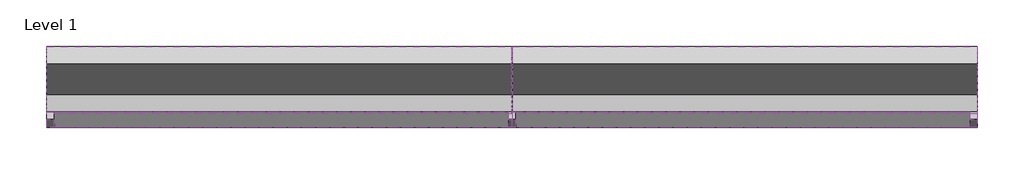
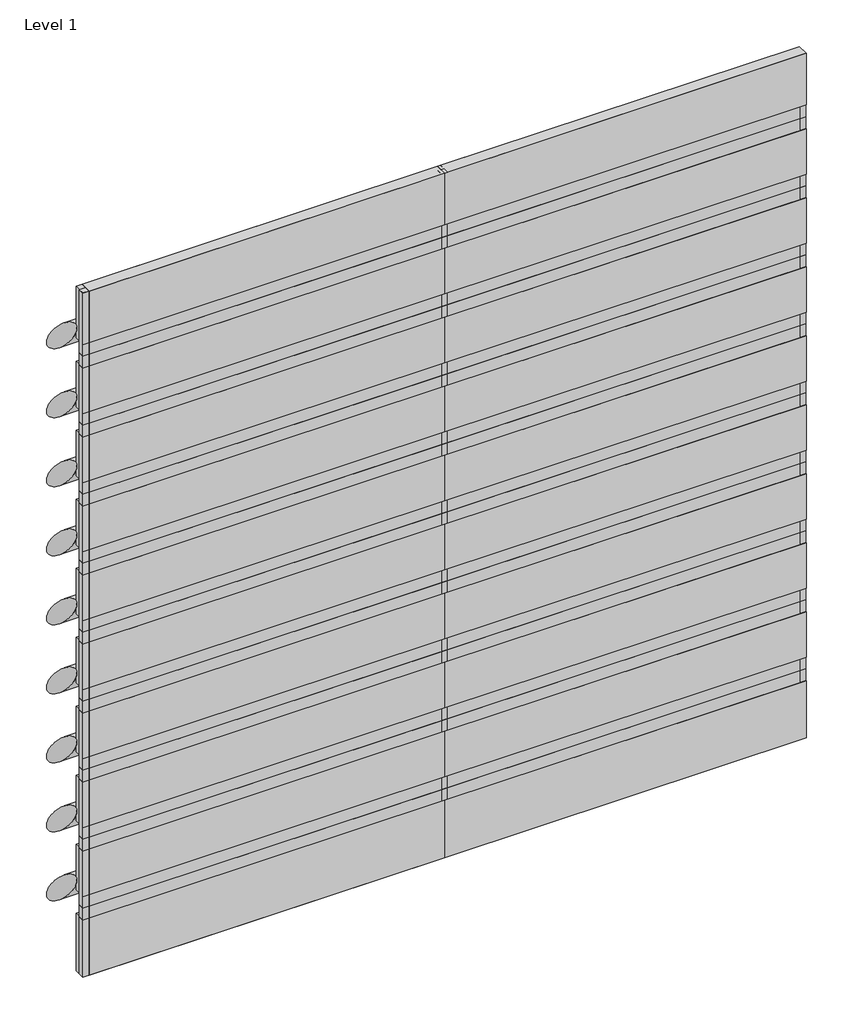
# One storey: 48 members, 40 plates.
"""IFC4 building model written with IfcOpenShell, lengths in millimetres."""

from ifc_helpers import new_model, si_unit, origin, place, context, project, spatial, transform, mapped, element, save
from components import rectangular_mullion_f0bcd2d9, rectangular_mullion_543a06af, rectangular_mullion_fcffcf6d, rectangular_mullion_1c998518, rectangular_mullion_4d0e3d15, rectangular_mullion_d8201ae5, rectangular_mullion_6e5ba28d, empty_system_panel_empty_d83849b1, empty_system_panel_empty_08c20342, empty_system_panel_empty_44b8d910, empty_system_panel_empty_714687c1, empty_system_panel_empty_0677d599

model = new_model("IFC4")

# Units and contexts
model_context = context("Model", 3, world=origin())
ifc_project = project(units=[si_unit("LENGTHUNIT", "METRE", prefix="MILLI")], contexts=[model_context])

# Site, building, storey
site = spatial("IfcSite", under=ifc_project)
building = spatial("IfcBuilding", under=site)
storey = spatial("IfcBuildingStorey", under=building, Name="Level 1", Elevation=0.0)

# Members
placement = place(None, origin())
rectangular_mullion_shape = rectangular_mullion_f0bcd2d9(model_context)
element("IfcMember", 1, ObjectType="Rectangular Mullion : RSen_21_CWM_blade - wing 600 - 45° perforated_gen_duco projects", at=placement, inside=storey, context=model_context, shape_type="MappedRepresentation", body=[
    mapped(rectangular_mullion_shape, transform((3000.0, 3000.0, 605.0), x_axis=(0.0, 0.0, 1.0), y_axis=(0.0, 1.0, 0.0), z_axis=(-1.0, 0.0, 0.0))),
])
element("IfcMember", 2, ObjectType="Rectangular Mullion : RSen_21_CWM_blade - wing 600 - 45° perforated_gen_duco projects", at=placement, inside=storey, context=model_context, shape_type="MappedRepresentation", body=[
    mapped(rectangular_mullion_shape, transform((3000.0, 3000.0, 1210.0), x_axis=(0.0, 0.0, 1.0), y_axis=(0.0, 1.0, 0.0), z_axis=(-1.0, 0.0, 0.0))),
])
element("IfcMember", 3, ObjectType="Rectangular Mullion : RSen_21_CWM_blade - wing 600 - 45° perforated_gen_duco projects", at=placement, inside=storey, context=model_context, shape_type="MappedRepresentation", body=[
    mapped(rectangular_mullion_shape, transform((3000.0, 3000.0, 1815.0), x_axis=(0.0, 0.0, 1.0), y_axis=(0.0, 1.0, 0.0), z_axis=(-1.0, 0.0, 0.0))),
])
element("IfcMember", 4, ObjectType="Rectangular Mullion : RSen_21_CWM_blade - wing 600 - 45° perforated_gen_duco projects", at=placement, inside=storey, context=model_context, shape_type="MappedRepresentation", body=[
    mapped(rectangular_mullion_shape, transform((3000.0, 3000.0, 2420.0), x_axis=(0.0, 0.0, 1.0), y_axis=(0.0, 1.0, 0.0), z_axis=(-1.0, 0.0, 0.0))),
])
element("IfcMember", 5, ObjectType="Rectangular Mullion : RSen_21_CWM_blade - wing 600 - 45° perforated_gen_duco projects", at=placement, inside=storey, context=model_context, shape_type="MappedRepresentation", body=[
    mapped(rectangular_mullion_shape, transform((3000.0, 3000.0, 3025.0), x_axis=(0.0, 0.0, 1.0), y_axis=(0.0, 1.0, 0.0), z_axis=(-1.0, 0.0, 0.0))),
])
element("IfcMember", 6, ObjectType="Rectangular Mullion : RSen_21_CWM_blade - wing 600 - 45° perforated_gen_duco projects", at=placement, inside=storey, context=model_context, shape_type="MappedRepresentation", body=[
    mapped(rectangular_mullion_shape, transform((3000.0, 3000.0, 3630.0), x_axis=(0.0, 0.0, 1.0), y_axis=(0.0, 1.0, 0.0), z_axis=(-1.0, 0.0, 0.0))),
])
element("IfcMember", 7, ObjectType="Rectangular Mullion : RSen_21_CWM_blade - wing 600 - 45° perforated_gen_duco projects", at=placement, inside=storey, context=model_context, shape_type="MappedRepresentation", body=[
    mapped(rectangular_mullion_shape, transform((3000.0, 3000.0, 4235.0), x_axis=(0.0, 0.0, 1.0), y_axis=(0.0, 1.0, 0.0), z_axis=(-1.0, 0.0, 0.0))),
])
element("IfcMember", 8, ObjectType="Rectangular Mullion : RSen_21_CWM_blade - wing 600 - 45° perforated_gen_duco projects", at=placement, inside=storey, context=model_context, shape_type="MappedRepresentation", body=[
    mapped(rectangular_mullion_shape, transform((3000.0, 3000.0, 4840.0), x_axis=(0.0, 0.0, 1.0), y_axis=(0.0, 1.0, 0.0), z_axis=(-1.0, 0.0, 0.0))),
])
element("IfcMember", 9, ObjectType="Rectangular Mullion : RSen_21_CWM_blade - wing 600 - 45° perforated_gen_duco projects", at=placement, inside=storey, context=model_context, shape_type="MappedRepresentation", body=[
    mapped(rectangular_mullion_shape, transform((3000.0, 3000.0, 5445.0), x_axis=(0.0, 0.0, 1.0), y_axis=(0.0, 1.0, 0.0), z_axis=(-1.0, 0.0, 0.0))),
])
element("IfcMember", 10, ObjectType="Rectangular Mullion : RSen_21_CWM_blade - wing 600 - 45° perforated_gen_duco projects", at=placement, inside=storey, context=model_context, shape_type="MappedRepresentation", body=[
    mapped(rectangular_mullion_shape, transform((0.0, 3000.0, 605.0), x_axis=(0.0, 0.0, 1.0), y_axis=(0.0, 1.0, 0.0), z_axis=(-1.0, 0.0, 0.0))),
])
element("IfcMember", 11, ObjectType="Rectangular Mullion : RSen_21_CWM_blade - wing 600 - 45° perforated_gen_duco projects", at=placement, inside=storey, context=model_context, shape_type="MappedRepresentation", body=[
    mapped(rectangular_mullion_shape, transform((0.0, 3000.0, 1210.0), x_axis=(0.0, 0.0, 1.0), y_axis=(0.0, 1.0, 0.0), z_axis=(-1.0, 0.0, 0.0))),
])
element("IfcMember", 12, ObjectType="Rectangular Mullion : RSen_21_CWM_blade - wing 600 - 45° perforated_gen_duco projects", at=placement, inside=storey, context=model_context, shape_type="MappedRepresentation", body=[
    mapped(rectangular_mullion_shape, transform((0.0, 3000.0, 1815.0), x_axis=(0.0, 0.0, 1.0), y_axis=(0.0, 1.0, 0.0), z_axis=(-1.0, 0.0, 0.0))),
])
element("IfcMember", 13, ObjectType="Rectangular Mullion : RSen_21_CWM_blade - wing 600 - 45° perforated_gen_duco projects", at=placement, inside=storey, context=model_context, shape_type="MappedRepresentation", body=[
    mapped(rectangular_mullion_shape, transform((0.0, 3000.0, 2420.0), x_axis=(0.0, 0.0, 1.0), y_axis=(0.0, 1.0, 0.0), z_axis=(-1.0, 0.0, 0.0))),
])
element("IfcMember", 14, ObjectType="Rectangular Mullion : RSen_21_CWM_blade - wing 600 - 45° perforated_gen_duco projects", at=placement, inside=storey, context=model_context, shape_type="MappedRepresentation", body=[
    mapped(rectangular_mullion_shape, transform((0.0, 3000.0, 3025.0), x_axis=(0.0, 0.0, 1.0), y_axis=(0.0, 1.0, 0.0), z_axis=(-1.0, 0.0, 0.0))),
])
element("IfcMember", 15, ObjectType="Rectangular Mullion : RSen_21_CWM_blade - wing 600 - 45° perforated_gen_duco projects", at=placement, inside=storey, context=model_context, shape_type="MappedRepresentation", body=[
    mapped(rectangular_mullion_shape, transform((0.0, 3000.0, 3630.0), x_axis=(0.0, 0.0, 1.0), y_axis=(0.0, 1.0, 0.0), z_axis=(-1.0, 0.0, 0.0))),
])
element("IfcMember", 16, ObjectType="Rectangular Mullion : RSen_21_CWM_blade - wing 600 - 45° perforated_gen_duco projects", at=placement, inside=storey, context=model_context, shape_type="MappedRepresentation", body=[
    mapped(rectangular_mullion_shape, transform((0.0, 3000.0, 4235.0), x_axis=(0.0, 0.0, 1.0), y_axis=(0.0, 1.0, 0.0), z_axis=(-1.0, 0.0, 0.0))),
])
element("IfcMember", 17, ObjectType="Rectangular Mullion : RSen_21_CWM_blade - wing 600 - 45° perforated_gen_duco projects", at=placement, inside=storey, context=model_context, shape_type="MappedRepresentation", body=[
    mapped(rectangular_mullion_shape, transform((0.0, 3000.0, 4840.0), x_axis=(0.0, 0.0, 1.0), y_axis=(0.0, 1.0, 0.0), z_axis=(-1.0, 0.0, 0.0))),
])
element("IfcMember", 18, ObjectType="Rectangular Mullion : RSen_21_CWM_blade - wing 600 - 45° perforated_gen_duco projects", at=placement, inside=storey, context=model_context, shape_type="MappedRepresentation", body=[
    mapped(rectangular_mullion_shape, transform((0.0, 3000.0, 5445.0), x_axis=(0.0, 0.0, 1.0), y_axis=(0.0, 1.0, 0.0), z_axis=(-1.0, 0.0, 0.0))),
])
rectangular_mullion_2_shape = rectangular_mullion_543a06af(model_context)
element("IfcMember", 19, ObjectType="Rectangular Mullion : RSen_21_CWM_support profile 50x50_gen_duco projects", at=placement, inside=storey, context=model_context, shape_type="MappedRepresentation", body=[
    mapped(rectangular_mullion_2_shape, transform((3000.0, 3000.0, 0.0), x_axis=(-1.0, 0.0, 0.0), y_axis=(0.0, 1.0, 0.0), z_axis=(0.0, 0.0, -1.0))),
])
element("IfcMember", 20, ObjectType="Rectangular Mullion : RSen_21_CWM_support profile 50x50_gen_duco projects", at=placement, inside=storey, context=model_context, shape_type="MappedRepresentation", body=[
    mapped(rectangular_mullion_2_shape, transform((3000.0, 3000.0, 605.0), x_axis=(-1.0, 0.0, 0.0), y_axis=(0.0, 1.0, 0.0), z_axis=(0.0, 0.0, -1.0))),
])
element("IfcMember", 21, ObjectType="Rectangular Mullion : RSen_21_CWM_support profile 50x50_gen_duco projects", at=placement, inside=storey, context=model_context, shape_type="MappedRepresentation", body=[
    mapped(rectangular_mullion_2_shape, transform((3000.0, 3000.0, 1210.0), x_axis=(-1.0, 0.0, 0.0), y_axis=(0.0, 1.0, 0.0), z_axis=(0.0, 0.0, -1.0))),
])
element("IfcMember", 22, ObjectType="Rectangular Mullion : RSen_21_CWM_support profile 50x50_gen_duco projects", at=placement, inside=storey, context=model_context, shape_type="MappedRepresentation", body=[
    mapped(rectangular_mullion_2_shape, transform((3000.0, 3000.0, 1815.0), x_axis=(-1.0, 0.0, 0.0), y_axis=(0.0, 1.0, 0.0), z_axis=(0.0, 0.0, -1.0))),
])
element("IfcMember", 23, ObjectType="Rectangular Mullion : RSen_21_CWM_support profile 50x50_gen_duco projects", at=placement, inside=storey, context=model_context, shape_type="MappedRepresentation", body=[
    mapped(rectangular_mullion_2_shape, transform((3000.0, 3000.0, 2420.0), x_axis=(-1.0, 0.0, 0.0), y_axis=(0.0, 1.0, 0.0), z_axis=(0.0, 0.0, -1.0))),
])
element("IfcMember", 24, ObjectType="Rectangular Mullion : RSen_21_CWM_support profile 50x50_gen_duco projects", at=placement, inside=storey, context=model_context, shape_type="MappedRepresentation", body=[
    mapped(rectangular_mullion_2_shape, transform((3000.0, 3000.0, 3025.0), x_axis=(-1.0, 0.0, 0.0), y_axis=(0.0, 1.0, 0.0), z_axis=(0.0, 0.0, -1.0))),
])
element("IfcMember", 25, ObjectType="Rectangular Mullion : RSen_21_CWM_support profile 50x50_gen_duco projects", at=placement, inside=storey, context=model_context, shape_type="MappedRepresentation", body=[
    mapped(rectangular_mullion_2_shape, transform((3000.0, 3000.0, 3630.0), x_axis=(-1.0, 0.0, 0.0), y_axis=(0.0, 1.0, 0.0), z_axis=(0.0, 0.0, -1.0))),
])
element("IfcMember", 26, ObjectType="Rectangular Mullion : RSen_21_CWM_support profile 50x50_gen_duco projects", at=placement, inside=storey, context=model_context, shape_type="MappedRepresentation", body=[
    mapped(rectangular_mullion_2_shape, transform((3000.0, 3000.0, 4235.0), x_axis=(-1.0, 0.0, 0.0), y_axis=(0.0, 1.0, 0.0), z_axis=(0.0, 0.0, -1.0))),
])
element("IfcMember", 27, ObjectType="Rectangular Mullion : RSen_21_CWM_support profile 50x50_gen_duco projects", at=placement, inside=storey, context=model_context, shape_type="MappedRepresentation", body=[
    mapped(rectangular_mullion_2_shape, transform((3000.0, 3000.0, 4840.0), x_axis=(-1.0, 0.0, 0.0), y_axis=(0.0, 1.0, 0.0), z_axis=(0.0, 0.0, -1.0))),
])
rectangular_mullion_3_shape = rectangular_mullion_fcffcf6d(model_context)
element("IfcMember", 28, ObjectType="Rectangular Mullion : RSen_21_CWM_support profile 50x50_gen_duco projects", at=placement, inside=storey, context=model_context, shape_type="MappedRepresentation", body=[
    mapped(rectangular_mullion_3_shape, transform((3000.0, 3000.0, 5445.0), x_axis=(-1.0, 0.0, 0.0), y_axis=(0.0, 1.0, 0.0), z_axis=(0.0, 0.0, -1.0))),
])
rectangular_mullion_4_shape = rectangular_mullion_1c998518(model_context)
element("IfcMember", 29, ObjectType="Rectangular Mullion : RSen_21_CWM_support profile 50x50 - left_gen_duco projects", at=placement, inside=storey, context=model_context, shape_type="MappedRepresentation", body=[
    mapped(rectangular_mullion_4_shape, transform((0.0, 3000.0, 0.0), x_axis=(-1.0, 0.0, 0.0), y_axis=(0.0, 1.0, 0.0), z_axis=(0.0, 0.0, -1.0))),
])
rectangular_mullion_5_shape = rectangular_mullion_4d0e3d15(model_context)
element("IfcMember", 30, ObjectType="Rectangular Mullion : RSen_21_CWM_support profile 50x50 - right_gen_duco projects", at=placement, inside=storey, context=model_context, shape_type="MappedRepresentation", body=[
    mapped(rectangular_mullion_5_shape, transform((6000.0, 3000.0, 6000.0), x_axis=(1.0, 0.0, 0.0), y_axis=(0.0, 1.0, 0.0), z_axis=(0.0, 0.0, 1.0))),
])
element("IfcMember", 31, ObjectType="Rectangular Mullion : RSen_21_CWM_support profile 50x50 - left_gen_duco projects", at=placement, inside=storey, context=model_context, shape_type="MappedRepresentation", body=[
    mapped(rectangular_mullion_4_shape, transform((0.0, 3000.0, 605.0), x_axis=(-1.0, 0.0, 0.0), y_axis=(0.0, 1.0, 0.0), z_axis=(0.0, 0.0, -1.0))),
])
element("IfcMember", 32, ObjectType="Rectangular Mullion : RSen_21_CWM_support profile 50x50 - left_gen_duco projects", at=placement, inside=storey, context=model_context, shape_type="MappedRepresentation", body=[
    mapped(rectangular_mullion_4_shape, transform((0.0, 3000.0, 1210.0), x_axis=(-1.0, 0.0, 0.0), y_axis=(0.0, 1.0, 0.0), z_axis=(0.0, 0.0, -1.0))),
])
element("IfcMember", 33, ObjectType="Rectangular Mullion : RSen_21_CWM_support profile 50x50 - left_gen_duco projects", at=placement, inside=storey, context=model_context, shape_type="MappedRepresentation", body=[
    mapped(rectangular_mullion_4_shape, transform((0.0, 3000.0, 1815.0), x_axis=(-1.0, 0.0, 0.0), y_axis=(0.0, 1.0, 0.0), z_axis=(0.0, 0.0, -1.0))),
])
element("IfcMember", 34, ObjectType="Rectangular Mullion : RSen_21_CWM_support profile 50x50 - left_gen_duco projects", at=placement, inside=storey, context=model_context, shape_type="MappedRepresentation", body=[
    mapped(rectangular_mullion_4_shape, transform((0.0, 3000.0, 2420.0), x_axis=(-1.0, 0.0, 0.0), y_axis=(0.0, 1.0, 0.0), z_axis=(0.0, 0.0, -1.0))),
])
element("IfcMember", 35, ObjectType="Rectangular Mullion : RSen_21_CWM_support profile 50x50 - left_gen_duco projects", at=placement, inside=storey, context=model_context, shape_type="MappedRepresentation", body=[
    mapped(rectangular_mullion_4_shape, transform((0.0, 3000.0, 3025.0), x_axis=(-1.0, 0.0, 0.0), y_axis=(0.0, 1.0, 0.0), z_axis=(0.0, 0.0, -1.0))),
])
element("IfcMember", 36, ObjectType="Rectangular Mullion : RSen_21_CWM_support profile 50x50 - left_gen_duco projects", at=placement, inside=storey, context=model_context, shape_type="MappedRepresentation", body=[
    mapped(rectangular_mullion_4_shape, transform((0.0, 3000.0, 3630.0), x_axis=(-1.0, 0.0, 0.0), y_axis=(0.0, 1.0, 0.0), z_axis=(0.0, 0.0, -1.0))),
])
element("IfcMember", 37, ObjectType="Rectangular Mullion : RSen_21_CWM_support profile 50x50 - left_gen_duco projects", at=placement, inside=storey, context=model_context, shape_type="MappedRepresentation", body=[
    mapped(rectangular_mullion_4_shape, transform((0.0, 3000.0, 4235.0), x_axis=(-1.0, 0.0, 0.0), y_axis=(0.0, 1.0, 0.0), z_axis=(0.0, 0.0, -1.0))),
])
element("IfcMember", 38, ObjectType="Rectangular Mullion : RSen_21_CWM_support profile 50x50 - left_gen_duco projects", at=placement, inside=storey, context=model_context, shape_type="MappedRepresentation", body=[
    mapped(rectangular_mullion_4_shape, transform((0.0, 3000.0, 4840.0), x_axis=(-1.0, 0.0, 0.0), y_axis=(0.0, 1.0, 0.0), z_axis=(0.0, 0.0, -1.0))),
])
rectangular_mullion_6_shape = rectangular_mullion_d8201ae5(model_context)
element("IfcMember", 39, ObjectType="Rectangular Mullion : RSen_21_CWM_support profile 50x50 - left_gen_duco projects", at=placement, inside=storey, context=model_context, shape_type="MappedRepresentation", body=[
    mapped(rectangular_mullion_6_shape, transform((0.0, 3000.0, 5445.0), x_axis=(-1.0, 0.0, 0.0), y_axis=(0.0, 1.0, 0.0), z_axis=(0.0, 0.0, -1.0))),
])
rectangular_mullion_7_shape = rectangular_mullion_6e5ba28d(model_context)
element("IfcMember", 40, ObjectType="Rectangular Mullion : RSen_21_CWM_support profile 50x50 - right_gen_duco projects", at=placement, inside=storey, context=model_context, shape_type="MappedRepresentation", body=[
    mapped(rectangular_mullion_7_shape, transform((6000.0, 3000.0, 605.0), x_axis=(1.0, 0.0, 0.0), y_axis=(0.0, 1.0, 0.0), z_axis=(0.0, 0.0, 1.0))),
])
element("IfcMember", 41, ObjectType="Rectangular Mullion : RSen_21_CWM_support profile 50x50 - right_gen_duco projects", at=placement, inside=storey, context=model_context, shape_type="MappedRepresentation", body=[
    mapped(rectangular_mullion_7_shape, transform((6000.0, 3000.0, 1210.0), x_axis=(1.0, 0.0, 0.0), y_axis=(0.0, 1.0, 0.0), z_axis=(0.0, 0.0, 1.0))),
])
element("IfcMember", 42, ObjectType="Rectangular Mullion : RSen_21_CWM_support profile 50x50 - right_gen_duco projects", at=placement, inside=storey, context=model_context, shape_type="MappedRepresentation", body=[
    mapped(rectangular_mullion_7_shape, transform((6000.0, 3000.0, 1815.0), x_axis=(1.0, 0.0, 0.0), y_axis=(0.0, 1.0, 0.0), z_axis=(0.0, 0.0, 1.0))),
])
element("IfcMember", 43, ObjectType="Rectangular Mullion : RSen_21_CWM_support profile 50x50 - right_gen_duco projects", at=placement, inside=storey, context=model_context, shape_type="MappedRepresentation", body=[
    mapped(rectangular_mullion_7_shape, transform((6000.0, 3000.0, 2420.0), x_axis=(1.0, 0.0, 0.0), y_axis=(0.0, 1.0, 0.0), z_axis=(0.0, 0.0, 1.0))),
])
element("IfcMember", 44, ObjectType="Rectangular Mullion : RSen_21_CWM_support profile 50x50 - right_gen_duco projects", at=placement, inside=storey, context=model_context, shape_type="MappedRepresentation", body=[
    mapped(rectangular_mullion_7_shape, transform((6000.0, 3000.0, 3025.0), x_axis=(1.0, 0.0, 0.0), y_axis=(0.0, 1.0, 0.0), z_axis=(0.0, 0.0, 1.0))),
])
element("IfcMember", 45, ObjectType="Rectangular Mullion : RSen_21_CWM_support profile 50x50 - right_gen_duco projects", at=placement, inside=storey, context=model_context, shape_type="MappedRepresentation", body=[
    mapped(rectangular_mullion_7_shape, transform((6000.0, 3000.0, 3630.0), x_axis=(1.0, 0.0, 0.0), y_axis=(0.0, 1.0, 0.0), z_axis=(0.0, 0.0, 1.0))),
])
element("IfcMember", 46, ObjectType="Rectangular Mullion : RSen_21_CWM_support profile 50x50 - right_gen_duco projects", at=placement, inside=storey, context=model_context, shape_type="MappedRepresentation", body=[
    mapped(rectangular_mullion_7_shape, transform((6000.0, 3000.0, 4235.0), x_axis=(1.0, 0.0, 0.0), y_axis=(0.0, 1.0, 0.0), z_axis=(0.0, 0.0, 1.0))),
])
element("IfcMember", 47, ObjectType="Rectangular Mullion : RSen_21_CWM_support profile 50x50 - right_gen_duco projects", at=placement, inside=storey, context=model_context, shape_type="MappedRepresentation", body=[
    mapped(rectangular_mullion_7_shape, transform((6000.0, 3000.0, 4840.0), x_axis=(1.0, 0.0, 0.0), y_axis=(0.0, 1.0, 0.0), z_axis=(0.0, 0.0, 1.0))),
])
element("IfcMember", 48, ObjectType="Rectangular Mullion : RSen_21_CWM_support profile 50x50 - right_gen_duco projects", at=placement, inside=storey, context=model_context, shape_type="MappedRepresentation", body=[
    mapped(rectangular_mullion_7_shape, transform((6000.0, 3000.0, 5445.0), x_axis=(1.0, 0.0, 0.0), y_axis=(0.0, 1.0, 0.0), z_axis=(0.0, 0.0, 1.0))),
])

# Plates
empty_system_panel_empty_shape = empty_system_panel_empty_d83849b1(model_context)
element("IfcPlate", 49, ObjectType="Empty System Panel : Empty", at=placement, inside=storey, context=model_context, shape_type="MappedRepresentation", body=[
    mapped(empty_system_panel_empty_shape, transform((4500.0, 3000.0, 0.0), x_axis=(-1.0, 0.0, 0.0), y_axis=(0.0, -1.0, 0.0), z_axis=(0.0, 0.0, 1.0))),
])
element("IfcPlate", 50, ObjectType="Empty System Panel : Empty", at=placement, inside=storey, context=model_context, shape_type="MappedRepresentation", body=[
    mapped(empty_system_panel_empty_shape, transform((1500.0, 3000.0, 0.0), x_axis=(-1.0, 0.0, 0.0), y_axis=(0.0, -1.0, 0.0), z_axis=(0.0, 0.0, 1.0))),
])
empty_system_panel_empty_2_shape = empty_system_panel_empty_08c20342(model_context)
element("IfcPlate", 51, ObjectType="Empty System Panel : Empty", at=placement, inside=storey, context=model_context, shape_type="MappedRepresentation", body=[
    mapped(empty_system_panel_empty_2_shape, transform((4500.0, 3000.0, 708.2375901), x_axis=(-1.0, 0.0, 0.0), y_axis=(0.0, -1.0, 0.0), z_axis=(0.0, 0.0, 1.0))),
])
element("IfcPlate", 52, ObjectType="Empty System Panel : Empty", at=placement, inside=storey, context=model_context, shape_type="MappedRepresentation", body=[
    mapped(empty_system_panel_empty_2_shape, transform((1500.0, 3000.0, 708.2375901), x_axis=(-1.0, 0.0, 0.0), y_axis=(0.0, -1.0, 0.0), z_axis=(0.0, 0.0, 1.0))),
])
element("IfcPlate", 53, ObjectType="Empty System Panel : Empty", at=placement, inside=storey, context=model_context, shape_type="MappedRepresentation", body=[
    mapped(empty_system_panel_empty_2_shape, transform((4500.0, 3000.0, 1313.2375901), x_axis=(-1.0, 0.0, 0.0), y_axis=(0.0, -1.0, 0.0), z_axis=(0.0, 0.0, 1.0))),
])
element("IfcPlate", 54, ObjectType="Empty System Panel : Empty", at=placement, inside=storey, context=model_context, shape_type="MappedRepresentation", body=[
    mapped(empty_system_panel_empty_2_shape, transform((1500.0, 3000.0, 1313.2375901), x_axis=(-1.0, 0.0, 0.0), y_axis=(0.0, -1.0, 0.0), z_axis=(0.0, 0.0, 1.0))),
])
element("IfcPlate", 55, ObjectType="Empty System Panel : Empty", at=placement, inside=storey, context=model_context, shape_type="MappedRepresentation", body=[
    mapped(empty_system_panel_empty_2_shape, transform((4500.0, 3000.0, 1918.2375901), x_axis=(-1.0, 0.0, 0.0), y_axis=(0.0, -1.0, 0.0), z_axis=(0.0, 0.0, 1.0))),
])
element("IfcPlate", 56, ObjectType="Empty System Panel : Empty", at=placement, inside=storey, context=model_context, shape_type="MappedRepresentation", body=[
    mapped(empty_system_panel_empty_2_shape, transform((1500.0, 3000.0, 1918.2375901), x_axis=(-1.0, 0.0, 0.0), y_axis=(0.0, -1.0, 0.0), z_axis=(0.0, 0.0, 1.0))),
])
element("IfcPlate", 57, ObjectType="Empty System Panel : Empty", at=placement, inside=storey, context=model_context, shape_type="MappedRepresentation", body=[
    mapped(empty_system_panel_empty_2_shape, transform((4500.0, 3000.0, 2523.2375901), x_axis=(-1.0, 0.0, 0.0), y_axis=(0.0, -1.0, 0.0), z_axis=(0.0, 0.0, 1.0))),
])
element("IfcPlate", 58, ObjectType="Empty System Panel : Empty", at=placement, inside=storey, context=model_context, shape_type="MappedRepresentation", body=[
    mapped(empty_system_panel_empty_2_shape, transform((1500.0, 3000.0, 2523.2375901), x_axis=(-1.0, 0.0, 0.0), y_axis=(0.0, -1.0, 0.0), z_axis=(0.0, 0.0, 1.0))),
])
element("IfcPlate", 59, ObjectType="Empty System Panel : Empty", at=placement, inside=storey, context=model_context, shape_type="MappedRepresentation", body=[
    mapped(empty_system_panel_empty_2_shape, transform((4500.0, 3000.0, 3128.2375901), x_axis=(-1.0, 0.0, 0.0), y_axis=(0.0, -1.0, 0.0), z_axis=(0.0, 0.0, 1.0))),
])
element("IfcPlate", 60, ObjectType="Empty System Panel : Empty", at=placement, inside=storey, context=model_context, shape_type="MappedRepresentation", body=[
    mapped(empty_system_panel_empty_2_shape, transform((1500.0, 3000.0, 3128.2375901), x_axis=(-1.0, 0.0, 0.0), y_axis=(0.0, -1.0, 0.0), z_axis=(0.0, 0.0, 1.0))),
])
element("IfcPlate", 61, ObjectType="Empty System Panel : Empty", at=placement, inside=storey, context=model_context, shape_type="MappedRepresentation", body=[
    mapped(empty_system_panel_empty_2_shape, transform((4500.0, 3000.0, 3733.2375901), x_axis=(-1.0, 0.0, 0.0), y_axis=(0.0, -1.0, 0.0), z_axis=(0.0, 0.0, 1.0))),
])
element("IfcPlate", 62, ObjectType="Empty System Panel : Empty", at=placement, inside=storey, context=model_context, shape_type="MappedRepresentation", body=[
    mapped(empty_system_panel_empty_2_shape, transform((1500.0, 3000.0, 3733.2375901), x_axis=(-1.0, 0.0, 0.0), y_axis=(0.0, -1.0, 0.0), z_axis=(0.0, 0.0, 1.0))),
])
element("IfcPlate", 63, ObjectType="Empty System Panel : Empty", at=placement, inside=storey, context=model_context, shape_type="MappedRepresentation", body=[
    mapped(empty_system_panel_empty_2_shape, transform((4500.0, 3000.0, 4338.2375901), x_axis=(-1.0, 0.0, 0.0), y_axis=(0.0, -1.0, 0.0), z_axis=(0.0, 0.0, 1.0))),
])
element("IfcPlate", 64, ObjectType="Empty System Panel : Empty", at=placement, inside=storey, context=model_context, shape_type="MappedRepresentation", body=[
    mapped(empty_system_panel_empty_2_shape, transform((1500.0, 3000.0, 4338.2375901), x_axis=(-1.0, 0.0, 0.0), y_axis=(0.0, -1.0, 0.0), z_axis=(0.0, 0.0, 1.0))),
])
element("IfcPlate", 65, ObjectType="Empty System Panel : Empty", at=placement, inside=storey, context=model_context, shape_type="MappedRepresentation", body=[
    mapped(empty_system_panel_empty_2_shape, transform((4500.0, 3000.0, 4943.2375901), x_axis=(-1.0, 0.0, 0.0), y_axis=(0.0, -1.0, 0.0), z_axis=(0.0, 0.0, 1.0))),
])
element("IfcPlate", 66, ObjectType="Empty System Panel : Empty", at=placement, inside=storey, context=model_context, shape_type="MappedRepresentation", body=[
    mapped(empty_system_panel_empty_2_shape, transform((1500.0, 3000.0, 4943.2375901), x_axis=(-1.0, 0.0, 0.0), y_axis=(0.0, -1.0, 0.0), z_axis=(0.0, 0.0, 1.0))),
])
empty_system_panel_empty_3_shape = empty_system_panel_empty_44b8d910(model_context)
element("IfcPlate", 67, ObjectType="Empty System Panel : Empty", at=placement, inside=storey, context=model_context, shape_type="MappedRepresentation", body=[
    mapped(empty_system_panel_empty_3_shape, transform((4500.0, 3000.0, 5548.2375901), x_axis=(-1.0, 0.0, 0.0), y_axis=(0.0, -1.0, 0.0), z_axis=(0.0, 0.0, 1.0))),
])
element("IfcPlate", 68, ObjectType="Empty System Panel : Empty", at=placement, inside=storey, context=model_context, shape_type="MappedRepresentation", body=[
    mapped(empty_system_panel_empty_3_shape, transform((1500.0, 3000.0, 5548.2375901), x_axis=(-1.0, 0.0, 0.0), y_axis=(0.0, -1.0, 0.0), z_axis=(0.0, 0.0, 1.0))),
])
empty_system_panel_empty_4_shape = empty_system_panel_empty_714687c1(model_context)
element("IfcPlate", 69, ObjectType="Empty System Panel : Empty", at=placement, inside=storey, context=model_context, shape_type="MappedRepresentation", body=[
    mapped(empty_system_panel_empty_4_shape, transform((4487.5, 3000.0, 0.0), x_axis=(-1.0, 0.0, 0.0), y_axis=(0.0, -1.0, 0.0), z_axis=(0.0, 0.0, 1.0))),
])
element("IfcPlate", 70, ObjectType="Empty System Panel : Empty", at=placement, inside=storey, context=model_context, shape_type="MappedRepresentation", body=[
    mapped(empty_system_panel_empty_4_shape, transform((1512.5, 3000.0, 0.0), x_axis=(-1.0, 0.0, 0.0), y_axis=(0.0, -1.0, 0.0), z_axis=(0.0, 0.0, 1.0))),
])
element("IfcPlate", 71, ObjectType="Empty System Panel : Empty", at=placement, inside=storey, context=model_context, shape_type="MappedRepresentation", body=[
    mapped(empty_system_panel_empty_4_shape, transform((4487.5, 3000.0, 605.0), x_axis=(-1.0, 0.0, 0.0), y_axis=(0.0, -1.0, 0.0), z_axis=(0.0, 0.0, 1.0))),
])
element("IfcPlate", 72, ObjectType="Empty System Panel : Empty", at=placement, inside=storey, context=model_context, shape_type="MappedRepresentation", body=[
    mapped(empty_system_panel_empty_4_shape, transform((1512.5, 3000.0, 605.0), x_axis=(-1.0, 0.0, 0.0), y_axis=(0.0, -1.0, 0.0), z_axis=(0.0, 0.0, 1.0))),
])
element("IfcPlate", 73, ObjectType="Empty System Panel : Empty", at=placement, inside=storey, context=model_context, shape_type="MappedRepresentation", body=[
    mapped(empty_system_panel_empty_4_shape, transform((4487.5, 3000.0, 1210.0), x_axis=(-1.0, 0.0, 0.0), y_axis=(0.0, -1.0, 0.0), z_axis=(0.0, 0.0, 1.0))),
])
element("IfcPlate", 74, ObjectType="Empty System Panel : Empty", at=placement, inside=storey, context=model_context, shape_type="MappedRepresentation", body=[
    mapped(empty_system_panel_empty_4_shape, transform((1512.5, 3000.0, 1210.0), x_axis=(-1.0, 0.0, 0.0), y_axis=(0.0, -1.0, 0.0), z_axis=(0.0, 0.0, 1.0))),
])
element("IfcPlate", 75, ObjectType="Empty System Panel : Empty", at=placement, inside=storey, context=model_context, shape_type="MappedRepresentation", body=[
    mapped(empty_system_panel_empty_4_shape, transform((4487.5, 3000.0, 1815.0), x_axis=(-1.0, 0.0, 0.0), y_axis=(0.0, -1.0, 0.0), z_axis=(0.0, 0.0, 1.0))),
])
element("IfcPlate", 76, ObjectType="Empty System Panel : Empty", at=placement, inside=storey, context=model_context, shape_type="MappedRepresentation", body=[
    mapped(empty_system_panel_empty_4_shape, transform((1512.5, 3000.0, 1815.0), x_axis=(-1.0, 0.0, 0.0), y_axis=(0.0, -1.0, 0.0), z_axis=(0.0, 0.0, 1.0))),
])
element("IfcPlate", 77, ObjectType="Empty System Panel : Empty", at=placement, inside=storey, context=model_context, shape_type="MappedRepresentation", body=[
    mapped(empty_system_panel_empty_4_shape, transform((4487.5, 3000.0, 2420.0), x_axis=(-1.0, 0.0, 0.0), y_axis=(0.0, -1.0, 0.0), z_axis=(0.0, 0.0, 1.0))),
])
element("IfcPlate", 78, ObjectType="Empty System Panel : Empty", at=placement, inside=storey, context=model_context, shape_type="MappedRepresentation", body=[
    mapped(empty_system_panel_empty_4_shape, transform((1512.5, 3000.0, 2420.0), x_axis=(-1.0, 0.0, 0.0), y_axis=(0.0, -1.0, 0.0), z_axis=(0.0, 0.0, 1.0))),
])
element("IfcPlate", 79, ObjectType="Empty System Panel : Empty", at=placement, inside=storey, context=model_context, shape_type="MappedRepresentation", body=[
    mapped(empty_system_panel_empty_4_shape, transform((4487.5, 3000.0, 3025.0), x_axis=(-1.0, 0.0, 0.0), y_axis=(0.0, -1.0, 0.0), z_axis=(0.0, 0.0, 1.0))),
])
element("IfcPlate", 80, ObjectType="Empty System Panel : Empty", at=placement, inside=storey, context=model_context, shape_type="MappedRepresentation", body=[
    mapped(empty_system_panel_empty_4_shape, transform((1512.5, 3000.0, 3025.0), x_axis=(-1.0, 0.0, 0.0), y_axis=(0.0, -1.0, 0.0), z_axis=(0.0, 0.0, 1.0))),
])
element("IfcPlate", 81, ObjectType="Empty System Panel : Empty", at=placement, inside=storey, context=model_context, shape_type="MappedRepresentation", body=[
    mapped(empty_system_panel_empty_4_shape, transform((4487.5, 3000.0, 3630.0), x_axis=(-1.0, 0.0, 0.0), y_axis=(0.0, -1.0, 0.0), z_axis=(0.0, 0.0, 1.0))),
])
element("IfcPlate", 82, ObjectType="Empty System Panel : Empty", at=placement, inside=storey, context=model_context, shape_type="MappedRepresentation", body=[
    mapped(empty_system_panel_empty_4_shape, transform((1512.5, 3000.0, 3630.0), x_axis=(-1.0, 0.0, 0.0), y_axis=(0.0, -1.0, 0.0), z_axis=(0.0, 0.0, 1.0))),
])
element("IfcPlate", 83, ObjectType="Empty System Panel : Empty", at=placement, inside=storey, context=model_context, shape_type="MappedRepresentation", body=[
    mapped(empty_system_panel_empty_4_shape, transform((4487.5, 3000.0, 4235.0), x_axis=(-1.0, 0.0, 0.0), y_axis=(0.0, -1.0, 0.0), z_axis=(0.0, 0.0, 1.0))),
])
element("IfcPlate", 84, ObjectType="Empty System Panel : Empty", at=placement, inside=storey, context=model_context, shape_type="MappedRepresentation", body=[
    mapped(empty_system_panel_empty_4_shape, transform((1512.5, 3000.0, 4235.0), x_axis=(-1.0, 0.0, 0.0), y_axis=(0.0, -1.0, 0.0), z_axis=(0.0, 0.0, 1.0))),
])
element("IfcPlate", 85, ObjectType="Empty System Panel : Empty", at=placement, inside=storey, context=model_context, shape_type="MappedRepresentation", body=[
    mapped(empty_system_panel_empty_4_shape, transform((4487.5, 3000.0, 4840.0), x_axis=(-1.0, 0.0, 0.0), y_axis=(0.0, -1.0, 0.0), z_axis=(0.0, 0.0, 1.0))),
])
element("IfcPlate", 86, ObjectType="Empty System Panel : Empty", at=placement, inside=storey, context=model_context, shape_type="MappedRepresentation", body=[
    mapped(empty_system_panel_empty_4_shape, transform((1512.5, 3000.0, 4840.0), x_axis=(-1.0, 0.0, 0.0), y_axis=(0.0, -1.0, 0.0), z_axis=(0.0, 0.0, 1.0))),
])
empty_system_panel_empty_5_shape = empty_system_panel_empty_0677d599(model_context)
element("IfcPlate", 87, ObjectType="Empty System Panel : Empty", at=placement, inside=storey, context=model_context, shape_type="MappedRepresentation", body=[
    mapped(empty_system_panel_empty_5_shape, transform((4487.5, 3000.0, 5445.0), x_axis=(-1.0, 0.0, 0.0), y_axis=(0.0, -1.0, 0.0), z_axis=(0.0, 0.0, 1.0))),
])
element("IfcPlate", 88, ObjectType="Empty System Panel : Empty", at=placement, inside=storey, context=model_context, shape_type="MappedRepresentation", body=[
    mapped(empty_system_panel_empty_5_shape, transform((1512.5, 3000.0, 5445.0), x_axis=(-1.0, 0.0, 0.0), y_axis=(0.0, -1.0, 0.0), z_axis=(0.0, 0.0, 1.0))),
])

save(model, "model.ifc")
